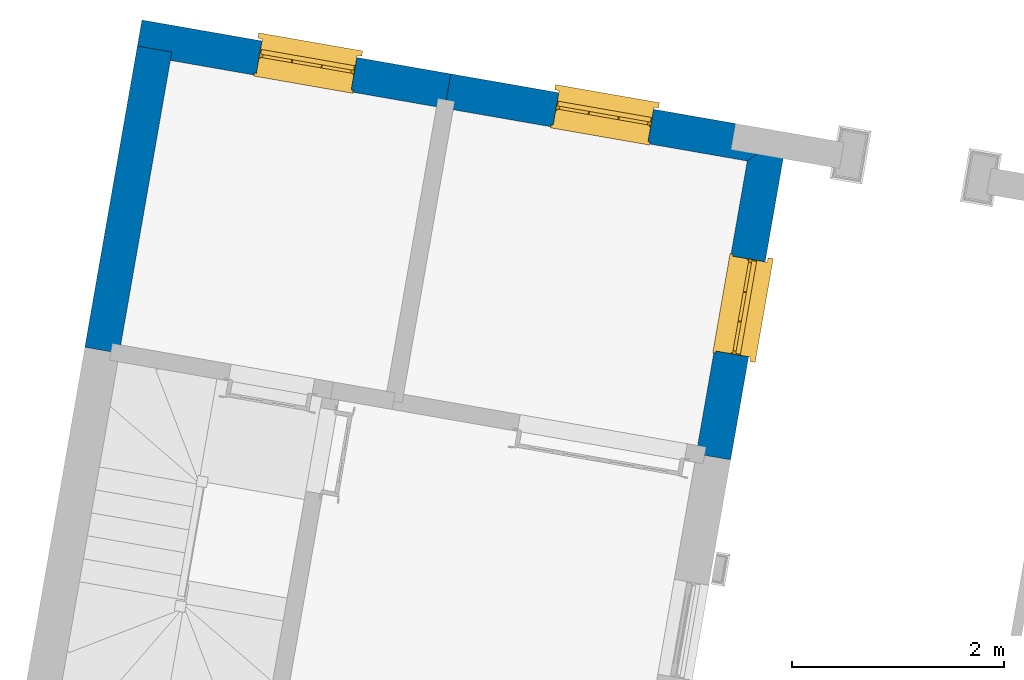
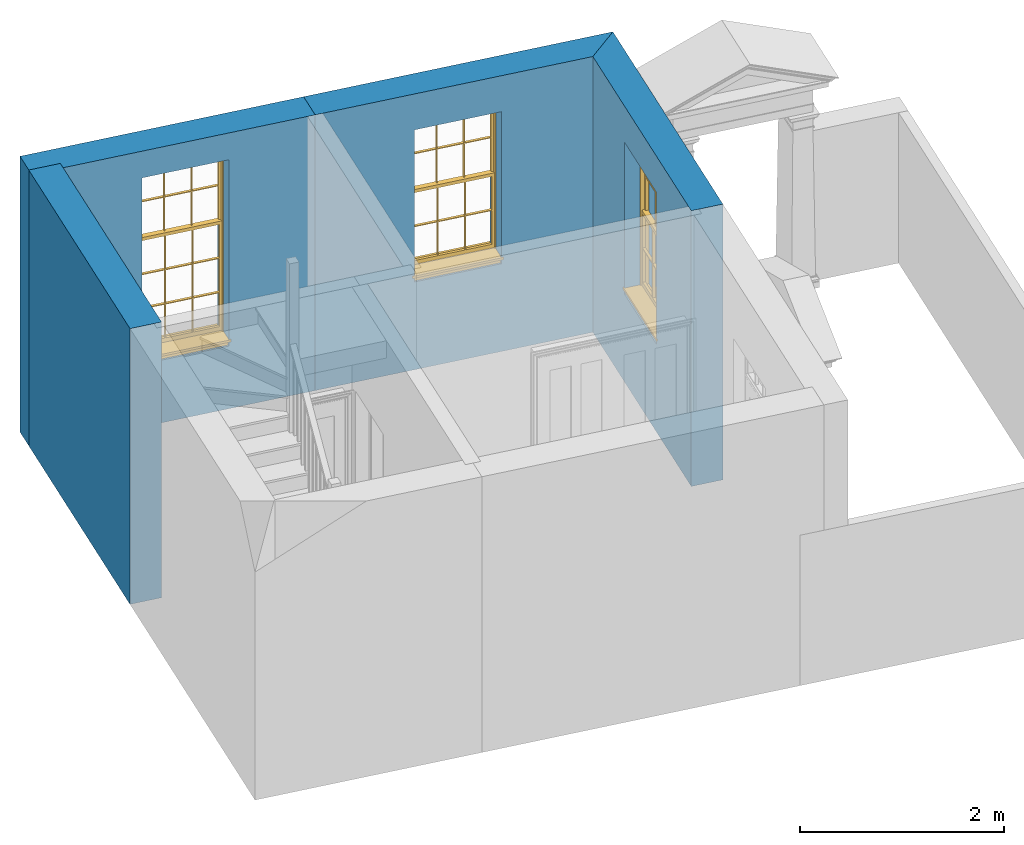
# One storey, part 4 of 6: 4 walls, 3 windows, 3 openings.
"""IFC4 building model written with IfcOpenShell, lengths in metres."""

from ifc_helpers import new_model, si_unit, frame, origin, origin_with_axes, place, context, subcontext, project, spatial, polyline, outline, extrude, faceted_brep, source, transform, mapped, material, layer, layer_set, layer_usage, type_object, type_shapes, element, fill, save


model = new_model("IFC4")

# Units and contexts
model_context = context("Model", 3, world=origin_with_axes())
body_context = subcontext(model_context, "Body", "Model", "MODEL_VIEW")
ifc_project = project(units=[si_unit("PLANEANGLEUNIT", "RADIAN"), si_unit("MASSUNIT", "GRAM", prefix="KILO"), si_unit("FORCEUNIT", "NEWTON", prefix="KILO"), si_unit("LENGTHUNIT", "METRE"), si_unit("AREAUNIT", "SQUARE_METRE"), si_unit("VOLUMEUNIT", "CUBIC_METRE")], contexts=[model_context, model_context])

# Sites, building, storey
site_1_placement = place(None, origin_with_axes())
site_1 = spatial("IfcSite", under=ifc_project, at=site_1_placement, Name="Tamar")
site_2_placement = place(site_1_placement, origin_with_axes())
site_2 = spatial("IfcSite", under=site_1, at=site_2_placement, Name="Site plot-27", CompositionType="ELEMENT")
building_placement = place(None, origin_with_axes())
building = spatial("IfcBuilding", under=site_2, at=building_placement, Name="Building plot-27", CompositionType="ELEMENT")
storey_placement = place(None, frame((0.0, 0.0, 26.0), z_axis=(0.0, 0.0, 1.0), x_axis=(1.0, 0.0, 0.0)))
storey = spatial("IfcBuildingStorey", under=building, at=storey_placement, Name="plot-27 0", CompositionType="ELEMENT", Elevation=26.0)

# Wall, opening, window
ifc_material_1 = material(Name="Masonry")
ifc_layer_1 = layer(ifc_material_1, 0.33, ventilated=False)
ifc_layer_set_1 = layer_set([ifc_layer_1], Name="exterior_0.08_0.25")
ifc_layer_usage_1 = layer_usage(ifc_layer_set_1, "AXIS2", "POSITIVE", -0.25)
wall_type_1 = type_object("IfcWallType", Name="exterior_0.08_0.25", PredefinedType="SOLIDWALL", material=ifc_layer_set_1)
wall_1_placement = place(storey_placement, frame((297.19996948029, 271.518143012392, 0.0), z_axis=(0.0, 0.0, 1.0), x_axis=(0.171788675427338, 0.985133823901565, 0.0)))
wall_1 = element("IfcWall", 1, at=wall_1_placement, inside=storey, type_object=wall_type_1, material=ifc_layer_usage_1, Name="exterior", context=body_context, shape_type="SweptSolid", body=[
    extrude(outline(polyline([(-1.93751545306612e-14, 0.0800000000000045), (-3.28472934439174e-14, -0.250000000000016), (3.13690107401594, -0.250000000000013), (2.80690107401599, 0.0799999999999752), (-1.93751545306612e-14, 0.0800000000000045)])), origin_with_axes(), (0.0, 0.0, 1.0), 3.3),
])
opening_1_placement = place(wall_1_placement, frame((0.98845053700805, 0.0, 1.05)))
opening_1 = element("IfcOpeningElement", 2, at=opening_1_placement, cuts=wall_1, Name="My Opening", ObjectType="Opening", context=body_context, shape_type="SweptSolid", body=[
    extrude(outline(polyline([(0.0, -0.269999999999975), (0.909999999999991, -0.269999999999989), (0.910000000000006, 1.09999999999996), (1.50990331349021e-14, 1.09999999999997), (0.0, -0.269999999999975)])), origin_with_axes(), (0.0, 0.0, 1.0), 1.82),
])
window_type_1 = type_object("IfcWindowType", Name="sash_big", PartitioningType="DOUBLE_PANEL_HORIZONTAL", PredefinedType="NOTDEFINED")
shared_shape_1 = source(origin(), body_context, "Body", "Brep", [
    faceted_brep([(0.033125, 0.145, 0.975209), (0.01, 0.145, 0.975209), (0.033125, 0.145, 1.376042), (0.876875, 0.145, 0.975209), (0.876875, 0.145, 1.376042), (0.9, 0.145, 0.975209), (0.876875, 0.145, 1.386042), (0.876875, 0.145, 1.786875), (0.9, 0.145, 1.81), (0.033125, 0.145, 1.786875), (0.033125, 0.145, 1.386042), (0.01, 0.145, 1.81), (0.876875, 0.115, 1.376042), (0.876875, 0.115, 0.975209), (0.9, 0.115, 0.937083), (0.033125, 0.115, 1.786875), (0.01, 0.115, 1.81), (0.033125, 0.115, 1.386042), (0.01, 0.115, 0.937083), (0.033125, 0.115, 0.975209), (0.033125, 0.115, 1.376042), (0.876875, 0.115, 1.786875), (0.876875, 0.115, 1.386042), (0.9, 0.115, 1.81), (0.033125, 0.145, 0.937083), (0.01, 0.145, 0.937083), (0.033125, 0.145, 0.53625), (0.876875, 0.145, 0.937083), (0.876875, 0.145, 0.53625), (0.9, 0.145, 0.937083), (0.876875, 0.145, 0.52625), (0.876875, 0.145, 0.125417), (0.9, 0.145, 0.077167), (0.033125, 0.145, 0.125417), (0.033125, 0.145, 0.52625), (0.01, 0.145, 0.077167), (-0.0425, 0.0, 0.01), (-0.0425, -0.05, 0.001667), (0.0, 0.0, 0.01), (0.9525, 0.0, 0.01), (0.91, 0.0, 0.01), (0.9525, -0.05, 0.001667), (-0.02, 0.33, 0.077167), (0.0, 0.33, 0.077167), (-0.02, 0.36, 0.077167), (0.0, 0.19, 0.077167), (0.01, 0.19, 0.077167), (0.91, 0.19, 0.077167), (0.91, 0.33, 0.077167), (0.9, 0.19, 0.077167), (0.93, 0.33, 0.077167), (0.93, 0.36, 0.077167), (0.01, 0.175, 0.975209), (0.9, 0.175, 0.975209), (0.876875, 0.175, 0.125417), (0.876875, 0.175, 0.52625), (0.9, 0.175, 0.077167), (0.876875, 0.175, 0.53625), (0.876875, 0.175, 0.937083), (0.033125, 0.175, 0.125417), (0.01, 0.175, 0.077167), (0.033125, 0.175, 0.52625), (0.033125, 0.175, 0.937083), (0.033125, 0.175, 0.53625), (-0.02, 0.33, 0.052167), (-0.02, 0.36, 0.052167), (0.93, 0.36, 0.052167), (0.93, 0.33, 0.052167), (0.91, 0.33, 0.052167), (0.0, 0.33, 0.052167), (0.91, 0.1, 0.026667), (0.0, 0.1, 0.026667), (-0.0425, -0.05, -0.123333), (0.9525, -0.05, -0.123333), (-0.0425, 0.0, -0.123333), (0.9525, 0.0, -0.123333), (0.01, 0.19, 1.81), (0.9, 0.19, 1.81), (0.0, 0.19, 1.82), (0.91, 0.19, 1.82), (0.01, 0.1, 0.077167), (0.9, 0.1, 0.077167), (0.592292, 0.145, 0.125417), (0.592292, 0.175, 0.125417), (0.317708, 0.175, 0.125417), (0.317708, 0.145, 0.125417), (0.592292, 0.145, 0.53625), (0.317708, 0.145, 0.53625), (0.317708, 0.145, 0.52625), (0.592292, 0.145, 0.52625), (0.592292, 0.175, 0.53625), (0.317708, 0.175, 0.53625), (0.592292, 0.115, 1.386042), (0.592292, 0.145, 1.386042), (0.317708, 0.145, 1.386042), (0.317708, 0.115, 1.386042), (0.317708, 0.115, 1.376042), (0.592292, 0.115, 1.376042), (0.317708, 0.145, 1.376042), (0.592292, 0.145, 1.376042), (0.602292, 0.115, 1.376042), (0.592292, 0.115, 0.975209), (0.602292, 0.115, 0.975209), (0.602292, 0.145, 0.975209), (0.592292, 0.145, 0.975209), (0.602292, 0.145, 1.376042), (0.602292, 0.175, 0.53625), (0.602292, 0.145, 0.53625), (0.317708, 0.175, 0.52625), (0.307708, 0.175, 0.125417), (0.307708, 0.175, 0.52625), (0.602292, 0.175, 0.52625), (0.602292, 0.175, 0.125417), (0.592292, 0.175, 0.52625), (0.307708, 0.175, 0.53625), (0.317708, 0.175, 0.937083), (0.307708, 0.175, 0.937083), (0.602292, 0.175, 0.937083), (0.592292, 0.175, 0.937083), (0.307708, 0.145, 0.52625), (0.307708, 0.145, 0.125417), (0.307708, 0.145, 0.53625), (0.307708, 0.145, 0.937083), (0.592292, 0.145, 0.937083), (0.317708, 0.145, 0.937083), (0.602292, 0.145, 0.937083), (0.602292, 0.145, 0.52625), (0.602292, 0.145, 0.125417), (0.307708, 0.115, 1.386042), (0.307708, 0.115, 1.376042), (0.307708, 0.115, 0.975209), (0.317708, 0.115, 0.975209), (0.317708, 0.115, 1.786875), (0.307708, 0.115, 1.786875), (0.602292, 0.115, 1.786875), (0.592292, 0.115, 1.786875), (0.602292, 0.115, 1.386042), (0.602292, 0.145, 1.386042), (0.307708, 0.145, 1.386042), (0.307708, 0.145, 1.786875), (0.317708, 0.145, 1.786875), (0.592292, 0.145, 1.786875), (0.602292, 0.145, 1.786875), (0.307708, 0.145, 1.376042), (0.317708, 0.145, 0.975209), (0.307708, 0.145, 0.975209), (0.91, 0.1, 1.82), (0.9, 0.1, 1.81), (0.01, 0.1, 1.81), (0.0, 0.1, 1.82), (0.91, 0.0, 0.0), (0.0, 0.0, 0.0), (0.91, 0.33, 0.0), (0.0, 0.33, 0.0)], [[[0, 1, 2]], [[3, 4, 5]], [[6, 7, 8]], [[9, 10, 11]], [[12, 13, 14]], [[15, 16, 17]], [[18, 19, 20]], [[21, 22, 23]], [[24, 25, 26]], [[27, 28, 29]], [[30, 31, 32]], [[33, 34, 35]], [[14, 27, 29]], [[25, 24, 18]], [[36, 37, 38]], [[39, 40, 41]], [[42, 43, 44]], [[45, 46, 43]], [[47, 48, 49]], [[50, 51, 48]], [[1, 0, 52]], [[5, 53, 3]], [[54, 55, 56]], [[57, 58, 53]], [[59, 60, 61]], [[62, 63, 52]], [[48, 43, 46, 49]], [[51, 44, 43, 48]], [[64, 42, 44, 65]], [[65, 44, 51, 66]], [[66, 51, 50, 67]], [[65, 66, 68, 69]], [[60, 56, 49, 46]], [[70, 71, 38, 40]], [[37, 41, 40, 38]], [[37, 72, 73, 41]], [[74, 75, 73, 72]], [[8, 11, 76, 77]], [[76, 78, 79, 77]], [[32, 35, 80, 81]], [[81, 80, 71, 70]], [[82, 83, 84, 85]], [[86, 87, 88, 89]], [[86, 90, 91, 87]], [[92, 93, 94, 95]], [[92, 95, 96, 97]], [[96, 98, 99, 97]], [[100, 97, 101, 102]], [[103, 104, 99, 105]], [[97, 99, 104, 101]], [[102, 103, 105, 100]], [[28, 57, 106, 107]], [[108, 84, 109, 110]], [[111, 112, 83, 113]], [[114, 110, 61, 63]], [[90, 113, 108, 91]], [[115, 91, 114, 116]], [[117, 106, 90, 118]], [[111, 106, 57, 55]], [[119, 110, 109, 120]], [[34, 61, 110, 119]], [[89, 113, 83, 82]], [[88, 108, 113, 89]], [[85, 84, 108, 88]], [[121, 114, 63, 26]], [[122, 116, 114, 121]], [[123, 118, 90, 86]], [[87, 91, 115, 124]], [[107, 106, 117, 125]], [[126, 111, 55, 30]], [[127, 112, 111, 126]], [[126, 30, 28, 107]], [[88, 119, 120, 85]], [[126, 89, 82, 127]], [[125, 123, 86, 107]], [[121, 26, 34, 119]], [[124, 122, 121, 87]], [[128, 17, 20, 129]], [[96, 129, 130, 131]], [[132, 133, 128, 95]], [[134, 135, 92, 136]], [[100, 12, 22, 136]], [[137, 6, 4, 105]], [[94, 138, 139, 140]], [[137, 93, 141, 142]], [[99, 98, 94, 93]], [[143, 2, 10, 138]], [[144, 145, 143, 98]], [[129, 143, 145, 130]], [[20, 2, 143, 129]], [[131, 144, 98, 96]], [[128, 138, 10, 17]], [[133, 139, 138, 128]], [[135, 141, 93, 92]], [[95, 94, 140, 132]], [[22, 6, 137, 136]], [[136, 137, 142, 134]], [[100, 105, 4, 12]], [[107, 86, 89, 126]], [[106, 111, 113, 90]], [[91, 108, 110, 114]], [[87, 121, 119, 88]], [[97, 100, 136, 92]], [[129, 96, 95, 128]], [[98, 143, 138, 94]], [[105, 99, 93, 137]], [[131, 101, 104, 144]], [[124, 115, 118, 123]], [[132, 140, 141, 135]], [[120, 109, 59, 33]], [[15, 9, 139, 133]], [[134, 142, 7, 21]], [[31, 54, 112, 127]], [[36, 74, 72, 37]], [[39, 41, 73, 75]], [[18, 14, 101, 131]], [[23, 16, 132, 135]], [[83, 56, 60, 84]], [[52, 53, 118, 115]], [[53, 52, 144, 104]], [[11, 8, 141, 140]], [[14, 18, 124, 123]], [[2, 1, 11, 10]], [[8, 5, 4, 6]], [[57, 53, 56, 55]], [[60, 52, 63, 61]], [[26, 25, 35, 34]], [[32, 29, 28, 30]], [[14, 23, 22, 12]], [[18, 20, 17, 16]], [[19, 0, 2, 20]], [[17, 10, 9, 15]], [[12, 4, 3, 13]], [[21, 7, 6, 22]], [[27, 58, 57, 28]], [[30, 55, 54, 31]], [[33, 59, 61, 34]], [[26, 63, 62, 24]], [[5, 8, 77, 53]], [[76, 11, 1, 52]], [[46, 45, 78, 76]], [[49, 77, 79, 47]], [[70, 146, 147, 81]], [[71, 80, 148, 149]], [[19, 130, 145, 0]], [[102, 13, 3, 103]], [[116, 122, 24, 62]], [[29, 32, 81, 14]], [[80, 35, 25, 18]], [[60, 46, 76, 52]], [[77, 49, 56, 53]], [[23, 14, 81, 147]], [[16, 148, 80, 18]], [[35, 85, 120]], [[120, 33, 35]], [[127, 82, 32]], [[32, 31, 127]], [[32, 82, 85, 35]], [[102, 101, 14]], [[14, 13, 102]], [[18, 131, 130]], [[130, 19, 18]], [[134, 21, 23]], [[23, 135, 134]], [[16, 15, 133]], [[133, 132, 16]], [[11, 140, 139]], [[139, 9, 11]], [[142, 141, 8]], [[8, 7, 142]], [[23, 147, 148, 16]], [[146, 149, 148, 147]], [[52, 115, 116]], [[116, 62, 52]], [[118, 53, 117]], [[58, 117, 53]], [[27, 125, 117, 58]], [[56, 83, 112]], [[112, 54, 56]], [[109, 84, 60]], [[60, 59, 109]], [[125, 27, 14]], [[14, 123, 125]], [[122, 124, 18]], [[18, 24, 122]], [[145, 144, 52]], [[52, 0, 145]], [[103, 3, 53]], [[53, 104, 103]], [[79, 78, 149, 146]], [[78, 45, 71, 149]], [[146, 70, 47, 79]], [[150, 75, 74, 151]], [[68, 66, 67]], [[48, 68, 67, 50]], [[69, 64, 65]], [[42, 64, 69, 43]], [[69, 68, 152, 153]], [[70, 68, 48, 47]], [[150, 152, 68, 70]], [[43, 69, 71, 45]], [[69, 153, 151, 71]], [[152, 150, 151, 153]], [[38, 151, 74, 36]], [[71, 151, 38]], [[39, 75, 150, 40]], [[40, 150, 70]]]),
])
type_shapes(window_type_1, [shared_shape_1])
window_1_placement = place(storey_placement, frame((297.635760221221, 272.445516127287, 1.05), z_axis=(0.0, 0.0, 1.0), x_axis=(0.15632769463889, 0.896471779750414, 0.0)))
window_1 = element("IfcWindow", 3, at=window_1_placement, inside=storey, type_object=window_type_1, Name="kitchen outside window", OverallHeight=1.82, OverallWidth=0.91, context=body_context, shape_type="MappedRepresentation", body=[
    mapped(shared_shape_1, transform((0.0, 0.0, 0.0), scale=1.0)),
])
fill(opening_1, window_1)

wall_2_placement = place(storey_placement, frame((297.695906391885, 274.362126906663, 0.0), z_axis=(0.0, 0.0, 1.0), x_axis=(-0.98513382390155, 0.171788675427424, 0.0)))
wall_2 = element("IfcWall", 4, at=wall_2_placement, inside=storey, type_object=wall_type_1, material=ifc_layer_usage_1, Name="exterior", context=body_context, shape_type="SweptSolid", body=[
    extrude(outline(polyline([(0.0799999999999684, 0.0800000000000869), (-0.249999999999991, -0.249999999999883), (2.97869342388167, -0.250000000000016), (2.97869342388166, 0.0800000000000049), (0.0799999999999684, 0.0800000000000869)])), origin_with_axes(), (0.0, 0.0, 1.0), 3.3),
])
opening_2_placement = place(wall_2_placement, frame((1.03434671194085, 0.0, 1.05)))
opening_2 = element("IfcOpeningElement", 5, at=opening_2_placement, cuts=wall_2, Name="My Opening", ObjectType="Opening", context=body_context, shape_type="SweptSolid", body=[
    extrude(outline(polyline([(0.0, -0.269999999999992), (0.909999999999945, -0.269999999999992), (0.909999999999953, 1.09999999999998), (7.32747196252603e-15, 1.09999999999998), (0.0, -0.269999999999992)])), origin_with_axes(), (0.0, 0.0, 1.0), 1.82),
])
window_2_placement = place(storey_placement, frame((296.723319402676, 274.805802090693, 1.05), z_axis=(0.0, 0.0, 1.0), x_axis=(-0.896471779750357, 0.156327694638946, 0.0)))
window_2 = element("IfcWindow", 6, at=window_2_placement, inside=storey, type_object=window_type_1, Name="kitchen street window", OverallHeight=1.82, OverallWidth=0.91, context=body_context, shape_type="MappedRepresentation", body=[
    mapped(shared_shape_1, transform((0.0, 0.0, 0.0), scale=1.0)),
])
fill(opening_2, window_2)

wall_3_placement = place(storey_placement, frame((294.761494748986, 274.873832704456, 0.0), z_axis=(0.0, 0.0, 1.0), x_axis=(-0.985133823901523, 0.17178867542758, 0.0)))
wall_3 = element("IfcWall", 7, at=wall_3_placement, inside=storey, type_object=wall_type_1, material=ifc_layer_usage_1, Name="exterior", context=body_context, shape_type="SweptSolid", body=[
    extrude(outline(polyline([(-3.90394247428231e-14, 0.0800000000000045), (2.86035509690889e-14, -0.250000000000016), (2.96098999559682, -0.249999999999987), (2.96098999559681, 0.0800000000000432), (-3.90394247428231e-14, 0.0800000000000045)])), origin_with_axes(), (0.0, 0.0, 1.0), 3.3),
])
opening_3_placement = place(wall_3_placement, frame((0.900494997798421, 0.0, 0.75)))
opening_3 = element("IfcOpeningElement", 8, at=opening_3_placement, cuts=wall_3, Name="My Opening", ObjectType="Opening", context=body_context, shape_type="SweptSolid", body=[
    extrude(outline(polyline([(0.0, -0.26999999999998), (0.909999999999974, -0.270000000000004), (0.909999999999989, 1.1), (1.45439216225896e-14, 1.10000000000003), (0.0, -0.26999999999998)])), origin_with_axes(), (0.0, 0.0, 1.0), 2.23),
])
window_type_2 = type_object("IfcWindowType", Name="sash_big_taller", PartitioningType="DOUBLE_PANEL_HORIZONTAL", PredefinedType="NOTDEFINED")
shared_shape_2 = source(origin(), body_context, "Body", "Brep", [
    faceted_brep([(0.033125, 0.145, 1.385209), (0.01, 0.145, 1.385209), (0.033125, 0.145, 1.786042), (0.876875, 0.145, 1.385209), (0.876875, 0.145, 1.786042), (0.9, 0.145, 1.385209), (0.876875, 0.145, 1.796042), (0.876875, 0.145, 2.196875), (0.9, 0.145, 2.22), (0.033125, 0.145, 2.196875), (0.033125, 0.145, 1.796042), (0.01, 0.145, 2.22), (0.876875, 0.115, 1.786042), (0.876875, 0.115, 1.385209), (0.9, 0.115, 1.347084), (0.033125, 0.115, 2.196875), (0.01, 0.115, 2.22), (0.033125, 0.115, 1.796042), (0.01, 0.115, 1.347084), (0.033125, 0.115, 1.385209), (0.033125, 0.115, 1.786042), (0.876875, 0.115, 2.196875), (0.876875, 0.115, 1.796042), (0.9, 0.115, 2.22), (0.033125, 0.145, 1.347084), (0.01, 0.145, 1.347084), (0.033125, 0.145, 0.94625), (0.876875, 0.145, 1.347084), (0.876875, 0.145, 0.94625), (0.9, 0.145, 1.347084), (0.876875, 0.145, 0.52625), (0.876875, 0.145, 0.125417), (0.9, 0.145, 0.077167), (0.033125, 0.145, 0.125417), (0.033125, 0.145, 0.52625), (0.01, 0.145, 0.077167), (-0.0425, 0.0, 0.01), (-0.0425, -0.05, 0.001667), (0.0, 0.0, 0.01), (0.9525, 0.0, 0.01), (0.91, 0.0, 0.01), (0.9525, -0.05, 0.001667), (-0.02, 0.33, 0.077167), (0.0, 0.33, 0.077167), (-0.02, 0.36, 0.077167), (0.0, 0.19, 0.077167), (0.01, 0.19, 0.077167), (0.91, 0.19, 0.077167), (0.91, 0.33, 0.077167), (0.9, 0.19, 0.077167), (0.93, 0.33, 0.077167), (0.93, 0.36, 0.077167), (0.01, 0.175, 1.385209), (0.9, 0.175, 1.385209), (0.876875, 0.175, 0.125417), (0.876875, 0.175, 0.52625), (0.9, 0.175, 0.077167), (0.876875, 0.175, 0.94625), (0.876875, 0.175, 1.347084), (0.033125, 0.175, 0.125417), (0.01, 0.175, 0.077167), (0.033125, 0.175, 0.52625), (0.033125, 0.175, 1.347084), (0.033125, 0.175, 0.94625), (-0.02, 0.33, 0.052167), (-0.02, 0.36, 0.052167), (0.93, 0.36, 0.052167), (0.93, 0.33, 0.052167), (0.91, 0.33, 0.052167), (0.0, 0.33, 0.052167), (0.91, 0.1, 0.026667), (0.0, 0.1, 0.026667), (-0.0425, -0.05, -0.123333), (0.9525, -0.05, -0.123333), (-0.0425, 0.0, -0.123333), (0.9525, 0.0, -0.123333), (0.01, 0.19, 2.22), (0.9, 0.19, 2.22), (0.0, 0.19, 2.23), (0.91, 0.19, 2.23), (0.01, 0.1, 0.077167), (0.9, 0.1, 0.077167), (0.592292, 0.145, 0.125417), (0.592292, 0.175, 0.125417), (0.317708, 0.175, 0.125417), (0.317708, 0.145, 0.125417), (0.592292, 0.145, 0.53625), (0.317708, 0.145, 0.53625), (0.317708, 0.145, 0.52625), (0.592292, 0.145, 0.52625), (0.592292, 0.175, 0.53625), (0.317708, 0.175, 0.53625), (0.592292, 0.115, 1.796042), (0.592292, 0.145, 1.796042), (0.317708, 0.145, 1.796042), (0.317708, 0.115, 1.796042), (0.317708, 0.115, 1.786042), (0.592292, 0.115, 1.786042), (0.317708, 0.145, 1.786042), (0.592292, 0.145, 1.786042), (0.602292, 0.115, 1.786042), (0.592292, 0.115, 1.385209), (0.602292, 0.115, 1.385209), (0.602292, 0.145, 1.385209), (0.592292, 0.145, 1.385209), (0.602292, 0.145, 1.786042), (0.876875, 0.145, 0.53625), (0.876875, 0.175, 0.53625), (0.602292, 0.175, 0.53625), (0.602292, 0.145, 0.53625), (0.317708, 0.175, 0.52625), (0.307708, 0.175, 0.125417), (0.307708, 0.175, 0.52625), (0.602292, 0.175, 0.52625), (0.602292, 0.175, 0.125417), (0.592292, 0.175, 0.52625), (0.307708, 0.175, 0.53625), (0.033125, 0.175, 0.53625), (0.317708, 0.175, 1.347084), (0.317708, 0.175, 0.94625), (0.307708, 0.175, 0.94625), (0.307708, 0.175, 1.347084), (0.602292, 0.175, 1.347084), (0.602292, 0.175, 0.94625), (0.592292, 0.175, 0.94625), (0.592292, 0.175, 1.347084), (0.307708, 0.145, 0.52625), (0.307708, 0.145, 0.125417), (0.307708, 0.145, 0.53625), (0.033125, 0.145, 0.53625), (0.307708, 0.145, 1.347084), (0.307708, 0.145, 0.94625), (0.592292, 0.145, 1.347084), (0.592292, 0.145, 0.94625), (0.317708, 0.145, 0.94625), (0.317708, 0.145, 1.347084), (0.602292, 0.145, 0.94625), (0.602292, 0.145, 1.347084), (0.602292, 0.145, 0.52625), (0.602292, 0.145, 0.125417), (0.307708, 0.115, 1.796042), (0.307708, 0.115, 1.786042), (0.307708, 0.115, 1.385209), (0.317708, 0.115, 1.385209), (0.317708, 0.115, 2.196875), (0.307708, 0.115, 2.196875), (0.602292, 0.115, 2.196875), (0.592292, 0.115, 2.196875), (0.602292, 0.115, 1.796042), (0.602292, 0.145, 1.796042), (0.307708, 0.145, 1.796042), (0.307708, 0.145, 2.196875), (0.317708, 0.145, 2.196875), (0.592292, 0.145, 2.196875), (0.602292, 0.145, 2.196875), (0.307708, 0.145, 1.786042), (0.317708, 0.145, 1.385209), (0.307708, 0.145, 1.385209), (0.876875, 0.175, 0.93625), (0.033125, 0.175, 0.93625), (0.033125, 0.145, 0.93625), (0.876875, 0.145, 0.93625), (0.91, 0.1, 2.23), (0.9, 0.1, 2.22), (0.01, 0.1, 2.22), (0.0, 0.1, 2.23), (0.91, 0.0, 0.0), (0.0, 0.0, 0.0), (0.91, 0.33, 0.0), (0.0, 0.33, 0.0), (0.317708, 0.145, 0.93625), (0.592292, 0.145, 0.93625), (0.317708, 0.175, 0.93625), (0.307708, 0.175, 0.93625), (0.602292, 0.175, 0.93625), (0.592292, 0.175, 0.93625), (0.307708, 0.145, 0.93625), (0.602292, 0.145, 0.93625)], [[[0, 1, 2]], [[3, 4, 5]], [[6, 7, 8]], [[9, 10, 11]], [[12, 13, 14]], [[15, 16, 17]], [[18, 19, 20]], [[21, 22, 23]], [[24, 25, 26]], [[27, 28, 29]], [[30, 31, 32]], [[33, 34, 35]], [[14, 27, 29]], [[25, 24, 18]], [[36, 37, 38]], [[39, 40, 41]], [[42, 43, 44]], [[45, 46, 43]], [[47, 48, 49]], [[50, 51, 48]], [[1, 0, 52]], [[5, 53, 3]], [[54, 55, 56]], [[57, 58, 53]], [[59, 60, 61]], [[62, 63, 52]], [[48, 43, 46, 49]], [[51, 44, 43, 48]], [[64, 42, 44, 65]], [[65, 44, 51, 66]], [[66, 51, 50, 67]], [[65, 66, 68, 69]], [[60, 56, 49, 46]], [[70, 71, 38, 40]], [[37, 41, 40, 38]], [[37, 72, 73, 41]], [[74, 75, 73, 72]], [[8, 11, 76, 77]], [[76, 78, 79, 77]], [[32, 35, 80, 81]], [[81, 80, 71, 70]], [[82, 83, 84, 85]], [[86, 87, 88, 89]], [[86, 90, 91, 87]], [[92, 93, 94, 95]], [[92, 95, 96, 97]], [[96, 98, 99, 97]], [[100, 97, 101, 102]], [[103, 104, 99, 105]], [[97, 99, 104, 101]], [[102, 103, 105, 100]], [[106, 107, 108, 109]], [[110, 84, 111, 112]], [[113, 114, 83, 115]], [[116, 112, 61, 117]], [[90, 115, 110, 91]], [[118, 119, 120, 121]], [[122, 123, 124, 125]], [[113, 108, 107, 55]], [[126, 112, 111, 127]], [[34, 61, 112, 126]], [[89, 115, 83, 82]], [[88, 110, 115, 89]], [[85, 84, 110, 88]], [[128, 116, 117, 129]], [[130, 121, 120, 131]], [[132, 125, 124, 133]], [[134, 119, 118, 135]], [[136, 123, 122, 137]], [[138, 113, 55, 30]], [[139, 114, 113, 138]], [[138, 30, 106, 109]], [[88, 126, 127, 85]], [[138, 89, 82, 139]], [[137, 132, 133, 136]], [[128, 129, 34, 126]], [[135, 130, 131, 134]], [[140, 17, 20, 141]], [[96, 141, 142, 143]], [[144, 145, 140, 95]], [[146, 147, 92, 148]], [[100, 12, 22, 148]], [[149, 6, 4, 105]], [[94, 150, 151, 152]], [[149, 93, 153, 154]], [[99, 98, 94, 93]], [[155, 2, 10, 150]], [[156, 157, 155, 98]], [[141, 155, 157, 142]], [[20, 2, 155, 141]], [[143, 156, 98, 96]], [[140, 150, 10, 17]], [[145, 151, 150, 140]], [[147, 153, 93, 92]], [[95, 94, 152, 144]], [[22, 6, 149, 148]], [[148, 149, 154, 146]], [[100, 105, 4, 12]], [[109, 86, 89, 138]], [[108, 113, 115, 90]], [[91, 110, 112, 116]], [[87, 128, 126, 88]], [[97, 100, 148, 92]], [[141, 96, 95, 140]], [[98, 155, 150, 94]], [[105, 99, 93, 149]], [[143, 101, 104, 156]], [[135, 118, 125, 132]], [[144, 152, 153, 147]], [[127, 111, 59, 33]], [[15, 9, 151, 145]], [[146, 154, 7, 21]], [[31, 54, 114, 139]], [[36, 74, 72, 37]], [[39, 41, 73, 75]], [[18, 14, 101, 143]], [[23, 16, 144, 147]], [[83, 56, 60, 84]], [[52, 53, 125, 118]], [[53, 52, 156, 104]], [[11, 8, 153, 152]], [[14, 18, 135, 132]], [[2, 1, 11, 10]], [[8, 5, 4, 6]], [[57, 53, 56, 158]], [[60, 52, 63, 159]], [[26, 25, 35, 160]], [[32, 29, 28, 161]], [[14, 23, 22, 12]], [[18, 20, 17, 16]], [[19, 0, 2, 20]], [[17, 10, 9, 15]], [[12, 4, 3, 13]], [[21, 7, 6, 22]], [[27, 58, 57, 28]], [[30, 55, 54, 31]], [[33, 59, 61, 34]], [[26, 63, 62, 24]], [[5, 8, 77, 53]], [[76, 11, 1, 52]], [[46, 45, 78, 76]], [[49, 77, 79, 47]], [[70, 162, 163, 81]], [[71, 80, 164, 165]], [[19, 142, 157, 0]], [[102, 13, 3, 103]], [[121, 130, 24, 62]], [[29, 32, 81, 14]], [[80, 35, 25, 18]], [[60, 46, 76, 52]], [[77, 49, 56, 53]], [[23, 14, 81, 163]], [[16, 164, 80, 18]], [[35, 85, 127]], [[127, 33, 35]], [[139, 82, 32]], [[32, 31, 139]], [[32, 82, 85, 35]], [[102, 101, 14]], [[14, 13, 102]], [[18, 143, 142]], [[142, 19, 18]], [[146, 21, 23]], [[23, 147, 146]], [[16, 15, 145]], [[145, 144, 16]], [[11, 152, 151]], [[151, 9, 11]], [[154, 153, 8]], [[8, 7, 154]], [[23, 163, 164, 16]], [[162, 165, 164, 163]], [[52, 118, 121]], [[121, 62, 52]], [[125, 53, 122]], [[58, 122, 53]], [[27, 137, 122, 58]], [[56, 83, 114]], [[114, 54, 56]], [[111, 84, 60]], [[60, 59, 111]], [[137, 27, 14]], [[14, 132, 137]], [[130, 135, 18]], [[18, 24, 130]], [[157, 156, 52]], [[52, 0, 157]], [[103, 3, 53]], [[53, 104, 103]], [[79, 78, 165, 162]], [[78, 45, 71, 165]], [[162, 70, 47, 79]], [[166, 75, 74, 167]], [[68, 66, 67]], [[48, 68, 67, 50]], [[69, 64, 65]], [[42, 64, 69, 43]], [[69, 68, 168, 169]], [[70, 68, 48, 47]], [[166, 168, 68, 70]], [[43, 69, 71, 45]], [[69, 169, 167, 71]], [[168, 166, 167, 169]], [[38, 167, 74, 36]], [[71, 167, 38]], [[39, 75, 166, 40]], [[40, 166, 70]], [[133, 134, 170, 171]], [[133, 124, 119, 134]], [[28, 57, 123, 136]], [[172, 91, 116, 173]], [[174, 108, 90, 175]], [[120, 173, 159, 63]], [[124, 175, 172, 119]], [[174, 123, 57, 158]], [[176, 173, 116, 128]], [[160, 159, 173, 176]], [[171, 175, 90, 86]], [[170, 172, 175, 171]], [[87, 91, 172, 170]], [[131, 120, 63, 26]], [[177, 174, 158, 161]], [[109, 108, 174, 177]], [[177, 161, 28, 136]], [[170, 176, 128, 87]], [[177, 171, 86, 109]], [[131, 26, 160, 176]], [[136, 133, 171, 177]], [[123, 174, 175, 124]], [[119, 172, 173, 120]], [[134, 131, 176, 170]], [[129, 117, 159, 160]], [[161, 158, 107, 106]], [[35, 34, 129]], [[35, 129, 160]], [[32, 106, 30]], [[32, 161, 106]], [[56, 55, 107]], [[56, 107, 158]], [[60, 117, 61]], [[60, 159, 117]]]),
])
type_shapes(window_type_2, [shared_shape_2])
window_3_placement = place(storey_placement, frame((293.920769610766, 275.29451367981, 0.75), z_axis=(0.0, 0.0, 1.0), x_axis=(-0.896471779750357, 0.156327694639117, 0.0)))
window_3 = element("IfcWindow", 9, at=window_3_placement, inside=storey, type_object=window_type_2, Name="toilet street window", OverallHeight=2.23, OverallWidth=0.91, context=body_context, shape_type="MappedRepresentation", body=[
    mapped(shared_shape_2, transform((0.0, 0.0, 0.0), scale=1.0)),
])
fill(opening_3, window_3)

# Wall
ifc_material_2 = material(Name="Masonry")
ifc_layer_2 = layer(ifc_material_2, 0.33, ventilated=False)
ifc_layer_set_2 = layer_set([ifc_layer_2], Name="party_0.08_0.25")
ifc_layer_usage_2 = layer_usage(ifc_layer_set_2, "AXIS2", "POSITIVE", -0.25)
wall_type_2 = type_object("IfcWallType", Name="party_0.08_0.25", PredefinedType="SOLIDWALL", material=ifc_layer_set_2)
wall_4_placement = place(storey_placement, frame((292.090806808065, 275.339550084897, 0.0), z_axis=(0.0, 0.0, 1.0), x_axis=(-0.171788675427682, -0.985133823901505, 0.0)))
element("IfcWall", 10, at=wall_4_placement, inside=storey, type_object=wall_type_2, material=ifc_layer_usage_2, Name="party", context=body_context, shape_type="SweptSolid", body=[
    extrude(outline(polyline([(8.653925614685e-15, 0.0800000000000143), (-1.53900414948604e-15, -0.250000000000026), (2.88690107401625, -0.250000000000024), (2.88690107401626, 0.0800000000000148), (8.653925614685e-15, 0.0800000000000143)])), origin_with_axes(), (0.0, 0.0, 1.0), 3.3),
])

save(model, "model.ifc")
